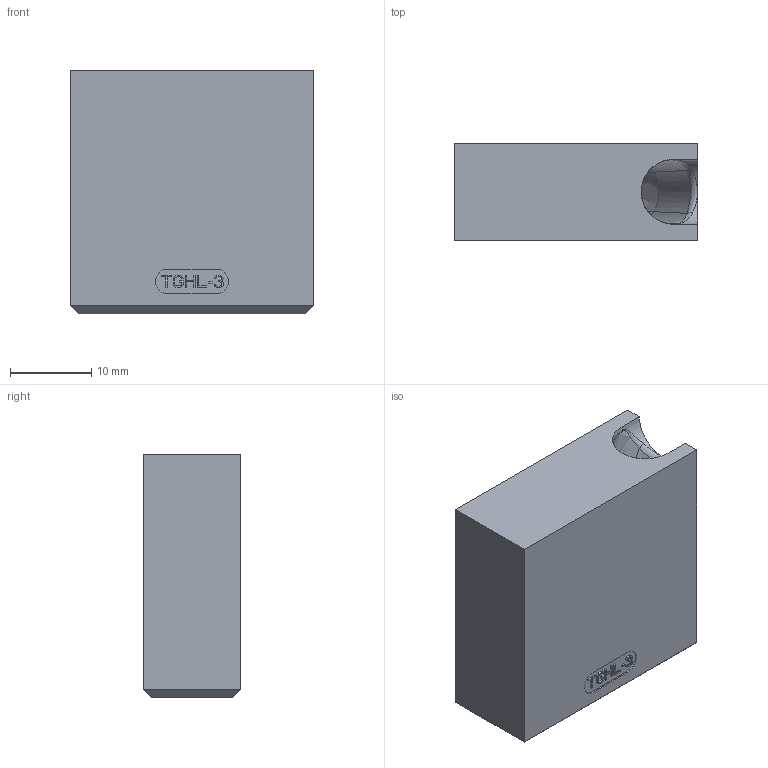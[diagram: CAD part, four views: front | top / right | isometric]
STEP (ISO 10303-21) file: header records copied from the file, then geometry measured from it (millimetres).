
FILE_DESCRIPTION((''),'2;1');
FILE_NAME('TGHL-3','2018-10-08T',('gsawatzky'),(''),'CREO PARAMETRIC BY PTC INC, 2016260','CREO PARAMETRIC BY PTC INC, 2016260','');
FILE_SCHEMA(('AUTOMOTIVE_DESIGN { 1 0 10303 214 1 1 1 1 }'));
Length unit declared in the file: millimetre
Products named in the file (1): TGHL-3
Bounding box: 30 x 12 x 30 mm (x, y, z)
Volume: 9331.1 mm3; surface area: 4285.1 mm2
Topology: 1 solids, 4 shells, 264 faces, 705 edges, 445 vertices
Faces by surface type: plane 172, bspline 66, cylinder 11, sphere 7, cone 4, extrusion 2, torus 2
Entity records: 14392 total; most frequent: CARTESIAN_POINT 6052, ORIENTED_EDGE 1376, DIRECTION 1047, PRESENTATION_STYLE_ASSIGNMENT 698, STYLED_ITEM 698, CURVE_STYLE 694, EDGE_CURVE 694, VECTOR 503
